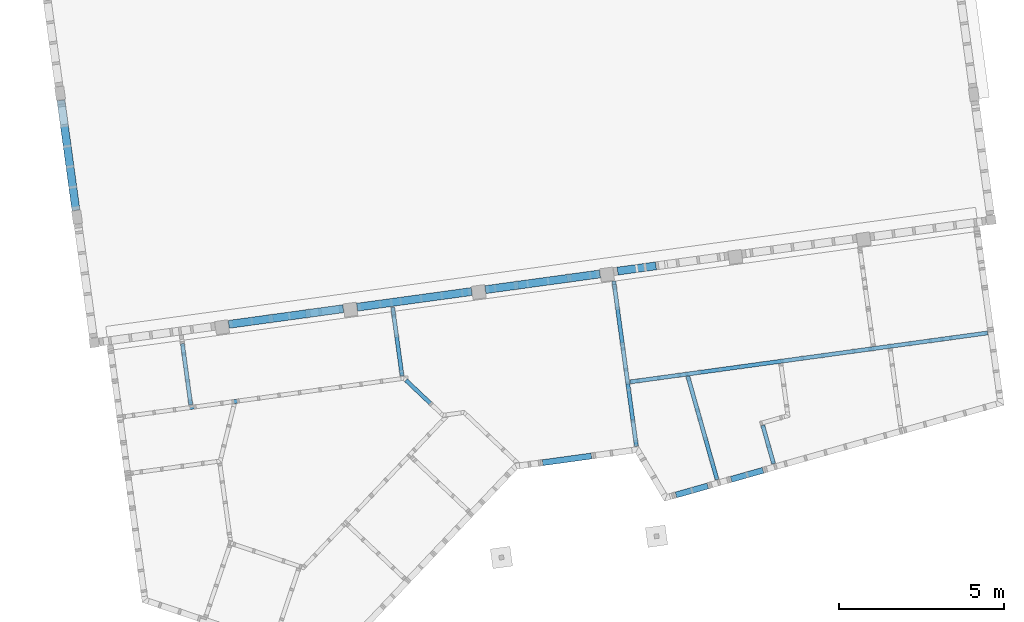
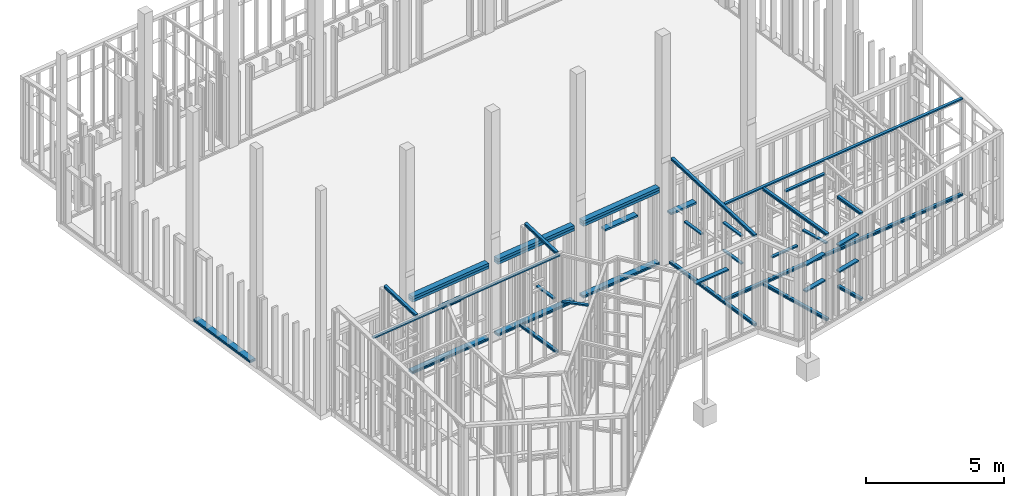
# One storey, part 11 of 24: 52 beams.
"""IFC2X3 building model written with IfcOpenShell, lengths in metres."""

from ifc_helpers import new_model, entity, si_unit, converted_unit, derived_unit, money_unit, direction, frame, frame_2d, origin_with_axes, place, context, subcontext, project, spatial, rectangle, extrude, clip, halfspace, material, type_object, element, save


model = new_model("IFC2X3")

# Units and contexts
model_context = context("Model", 3, precision=1e-05, world=origin_with_axes(), true_north=direction((0.0, 1.0)))
body_context = subcontext(model_context, "Body", "Model", "MODEL_VIEW")
ifc_project = project(units=[si_unit("LENGTHUNIT", "METRE"), si_unit("AREAUNIT", "SQUARE_METRE"), si_unit("VOLUMEUNIT", "CUBIC_METRE"), converted_unit("PLANEANGLEUNIT", "DEGREE", entity("IfcPlaneAngleMeasure", 0.0174532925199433), si_unit("PLANEANGLEUNIT", "RADIAN"), dimensions=[0, 0, 0, 0, 0, 0, 0]), money_unit("EUR"), converted_unit("TIMEUNIT", "Year", entity("IfcTimeMeasure", 31557600.0), si_unit("TIMEUNIT", "SECOND"), dimensions=[0, 0, 1, 0, 0, 0, 0]), si_unit("MASSUNIT", "GRAM", prefix="KILO"), si_unit("THERMODYNAMICTEMPERATUREUNIT", "DEGREE_CELSIUS"), si_unit("LUMINOUSINTENSITYUNIT", "LUMEN"), si_unit("ENERGYUNIT", "JOULE", prefix="MEGA"), derived_unit("THERMALCONDUCTANCEUNIT", [(si_unit("POWERUNIT", "WATT"), 1), (si_unit("LENGTHUNIT", "METRE"), -1), (si_unit("THERMODYNAMICTEMPERATUREUNIT", "KELVIN"), -1)]), derived_unit("SPECIFICHEATCAPACITYUNIT", [(si_unit("ENERGYUNIT", "JOULE"), 1), (si_unit("MASSUNIT", "GRAM", prefix="KILO"), -1), (si_unit("THERMODYNAMICTEMPERATUREUNIT", "KELVIN"), -1)]), derived_unit("MASSDENSITYUNIT", [(si_unit("MASSUNIT", "GRAM", prefix="KILO"), 1), (si_unit("VOLUMEUNIT", "CUBIC_METRE"), -1)])], contexts=[model_context])

# Site, building, storey
site_placement = place(None, origin_with_axes())
site = spatial("IfcSite", under=ifc_project, at=site_placement, Name="Gelände", CompositionType="ELEMENT")
building_placement = place(site_placement, origin_with_axes())
building = spatial("IfcBuilding", under=site, at=building_placement, Name="Gebäude", CompositionType="ELEMENT")
storey_placement = place(building_placement, origin_with_axes())
storey = spatial("IfcBuildingStorey", under=building, at=storey_placement, Name="EG", CompositionType="ELEMENT", Elevation=0.0)

# Beams
ifc_material_1 = material(Name="Bauholz")
beam_type_1 = type_object("IfcBeamType", Name="Bauholz 120 x 60", PredefinedType="NOTDEFINED")
beam_1_placement = place(storey_placement, frame((102.7236873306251, -152.2686816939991, 2.195), z_axis=(0.0, 0.0, 1.0), x_axis=(-0.9907484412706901, -0.1357111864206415, 0.0)))
element("IfcBeam", 1, at=beam_1_placement, inside=storey, type_object=beam_type_1, material=ifc_material_1, Name="Unterzug-021", context=body_context, shape_type="SweptSolid", body=[
    extrude(rectangle(XDim=0.06, YDim=0.12, at=frame_2d((-0.03, 0.0), x_axis=(1.0, 0.0))), frame((0.0, 0.0, 0.0), z_axis=(0.0, 1.0, 0.0), x_axis=(0.0, 0.0, 1.0)), (0.0, 0.0, 1.0), 1.090424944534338),
])
beam_2_placement = place(storey_placement, frame((105.0789092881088, -153.9516149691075, 3.279521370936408), z_axis=(0.0, 0.0, 1.0), x_axis=(-0.9621980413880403, -0.2723507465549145, 0.0)))
element("IfcBeam", 2, at=beam_2_placement, inside=storey, type_object=beam_type_1, material=ifc_material_1, Name="Unterzug-021", context=body_context, shape_type="SweptSolid", body=[
    extrude(rectangle(XDim=0.06, YDim=0.12, at=frame_2d((-0.03, 0.0), x_axis=(1.0, 0.0))), frame((0.0, 0.0, 0.0), z_axis=(0.0, 1.0, 0.0), x_axis=(0.0, 0.0, 1.0)), (0.0, 0.0, 1.0), 1.189999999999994),
])
beam_3_placement = place(storey_placement, frame((107.3417473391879, -151.5755371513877, 3.537563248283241), z_axis=(0.0, 0.0, 1.0), x_axis=(-0.1357111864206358, 0.9907484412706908, 0.0)))
element("IfcBeam", 3, at=beam_3_placement, inside=storey, type_object=beam_type_1, material=ifc_material_1, Name="Unterzug-021", context=body_context, shape_type="SweptSolid", body=[
    extrude(rectangle(XDim=0.06, YDim=0.12, at=frame_2d((-0.03, 0.0), x_axis=(1.0, 0.0))), frame((0.0, 0.0, 0.0), z_axis=(0.0, 1.0, 0.0), x_axis=(0.0, 0.0, 1.0)), (0.0, 0.0, 1.0), 1.815000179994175),
])
for number, where, z_axis, x_axis, name in (
    (4, (113.5952773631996, -150.7189480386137, -0.04299999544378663), (0.0, 0.0, 1.0), (-0.1357111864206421, 0.99074844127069, 0.0), "Unterzug-021"),
    (5, (113.5952773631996, -150.7189480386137, 4.166578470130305), (0.0, 0.0, 1.0), (-0.1357111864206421, 0.99074844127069, 0.0), "Unterzug-021"),
):
    element("IfcBeam", number, at=place(storey_placement, frame(where, z_axis=z_axis, x_axis=x_axis)), inside=storey, type_object=beam_type_1, material=ifc_material_1, Name=name, context=body_context, shape_type="SweptSolid", body=[
        extrude(rectangle(XDim=0.06, YDim=0.12, at=frame_2d((-0.03, 0.0), x_axis=(1.0, 0.0))), frame((0.0, 0.0, 0.0), z_axis=(0.0, 1.0, 0.0), x_axis=(0.0, 0.0, 1.0)), (0.0, 0.0, 1.0), 10.90632528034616),
    ])
beam_4_placement = place(storey_placement, frame((106.7991768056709, -153.5118791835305, -0.04299999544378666), z_axis=(0.0, 0.0, 1.0), x_axis=(-0.962198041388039, -0.2723507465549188, 0.0)))
element("IfcBeam", 6, at=beam_4_placement, inside=storey, type_object=beam_type_1, material=ifc_material_1, Name="Unterzug-021", context=body_context, shape_type="SweptSolid", body=[
    extrude(rectangle(XDim=0.06, YDim=0.12, at=frame_2d((-0.03, 0.0), x_axis=(1.0, 0.0))), frame((0.0, 0.0, 0.0), z_axis=(0.0, 1.0, 0.0), x_axis=(0.0, 0.0, 1.0)), (0.0, 0.0, 1.0), 1.204596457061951),
])
beam_5_placement = place(storey_placement, frame((106.7989070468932, -153.5109261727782, 3.90744864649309), z_axis=(0.0, 0.0, 1.0), x_axis=(-0.9621980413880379, -0.2723507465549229, 0.0)))
element("IfcBeam", 7, at=beam_5_placement, inside=storey, type_object=beam_type_1, material=ifc_material_1, Name="Unterzug-021", context=body_context, shape_type="Clipping", body=[
    clip(clip(extrude(rectangle(XDim=0.06, YDim=0.12, at=frame_2d((-0.03, 0.0), x_axis=(1.0, 0.0))), frame((0.0, -0.02339274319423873, 0.003255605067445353), z_axis=(0.0, 0.9904540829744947, -0.1378430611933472), x_axis=(0.0, 0.1378430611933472, 0.9904540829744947)), (0.0, 0.0, 1.0), 1.265236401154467), halfspace(frame((0.0, 0.0, 0.0), z_axis=(0.0, 1.0, 0.0), x_axis=(0.0, 0.0, 1.0)), True)), halfspace(frame((0.0, 1.20637307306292, 0.0), z_axis=(0.0, -1.0, 0.0), x_axis=(0.0, 0.0, -1.0)), True)),
])
beam_6_placement = place(storey_placement, frame((104.5342535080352, -152.0273803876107, -0.04299999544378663), z_axis=(0.0, 0.0, 1.0), x_axis=(-0.962198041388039, -0.2723507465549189, 0.0)))
element("IfcBeam", 8, at=beam_6_placement, inside=storey, type_object=beam_type_1, material=ifc_material_1, Name="Unterzug-021", context=body_context, shape_type="SweptSolid", body=[
    extrude(rectangle(XDim=0.0600000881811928, YDim=0.12, at=frame_2d((-0.0300000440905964, 0.0), x_axis=(1.0, 0.0))), frame((0.0, 0.0, 0.0), z_axis=(0.0, 1.0, 0.0), x_axis=(0.0, 0.0, 1.0)), (0.0, 0.0, 1.0), 3.249832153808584),
])
beam_7_placement = place(storey_placement, frame((104.5339837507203, -152.0264273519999, 4.156199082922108), z_axis=(0.0, 0.0, 1.0), x_axis=(-0.9621980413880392, -0.272350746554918, 0.0)))
element("IfcBeam", 9, at=beam_7_placement, inside=storey, type_object=beam_type_1, material=ifc_material_1, Name="Unterzug-021", context=body_context, shape_type="Clipping", body=[
    clip(clip(extrude(rectangle(XDim=0.06, YDim=0.12, at=frame_2d((-0.03, 0.0), x_axis=(1.0, 0.0))), frame((0.0, -0.02339194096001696, 0.003255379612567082), z_axis=(0.0, 0.990454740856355, -0.1378383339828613), x_axis=(0.0, 0.1378383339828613, 0.990454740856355)), (0.0, 0.0, 1.0), 3.330234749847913), halfspace(frame((0.0, 0.0, 0.0), z_axis=(0.0, 1.0, 0.0), x_axis=(0.0, 0.0, 1.0)), True)), halfspace(frame((0.0, 3.251662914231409, 0.0), z_axis=(0.0, -1.0, 0.0), x_axis=(0.0, 0.0, -1.0)), True)),
])
beam_8_placement = place(storey_placement, frame((102.2962968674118, -149.1485520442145, -0.04299999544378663), z_axis=(0.0, 0.0, 1.0), x_axis=(-0.9907484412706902, -0.1357111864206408, 0.0)))
element("IfcBeam", 10, at=beam_8_placement, inside=storey, type_object=beam_type_1, material=ifc_material_1, Name="Unterzug-021", context=body_context, shape_type="SweptSolid", body=[
    extrude(rectangle(XDim=0.06, YDim=0.12, at=frame_2d((-0.03, 0.0), x_axis=(1.0, 0.0))), frame((0.0, 0.0, 0.0), z_axis=(0.0, 1.0, 0.0), x_axis=(0.0, 0.0, 1.0)), (0.0, 0.0, 1.0), 5.043582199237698),
])
beam_9_placement = place(storey_placement, frame((102.414463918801, -150.0112210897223, 2.195), z_axis=(0.0, 0.0, 1.0), x_axis=(-0.9907484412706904, -0.1357111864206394, 0.0)))
element("IfcBeam", 11, at=beam_9_placement, inside=storey, type_object=beam_type_1, material=ifc_material_1, Name="Unterzug-021", context=body_context, shape_type="SweptSolid", body=[
    extrude(rectangle(XDim=0.06, YDim=0.12, at=frame_2d((-0.03, 0.0), x_axis=(1.0, 0.0))), frame((0.0, 0.0, 0.0), z_axis=(0.0, 1.0, 0.0), x_axis=(0.0, 0.0, 1.0)), (0.0, 0.0, 1.0), 1.010000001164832),
])
beam_10_placement = place(storey_placement, frame((102.7236873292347, -152.2686816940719, 3.420563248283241), z_axis=(0.0, 0.0, 1.0), x_axis=(-0.9907484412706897, -0.1357111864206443, 0.0)))
element("IfcBeam", 12, at=beam_10_placement, inside=storey, type_object=beam_type_1, material=ifc_material_1, Name="Unterzug-021", context=body_context, shape_type="SweptSolid", body=[
    extrude(rectangle(XDim=0.06, YDim=0.12, at=frame_2d((-0.03, 0.0), x_axis=(1.0, 0.0))), frame((0.0, 0.0, 0.0), z_axis=(0.0, 1.0, 0.0), x_axis=(0.0, 0.0, 1.0)), (0.0, 0.0, 1.0), 1.090425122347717),
])
beam_11_placement = place(storey_placement, frame((95.6137137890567, -149.9428017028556, -0.04300000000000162), z_axis=(0.0, 0.0, 1.0), x_axis=(-0.9907484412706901, -0.1357111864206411, 0.0)))
element("IfcBeam", 13, at=beam_11_placement, inside=storey, type_object=beam_type_1, material=ifc_material_1, Name="Unterzug-021", context=body_context, shape_type="SweptSolid", body=[
    extrude(rectangle(XDim=0.06, YDim=0.12, at=frame_2d((-0.03, 0.0), x_axis=(1.0, 0.0))), frame((0.0, 0.0, 0.0), z_axis=(0.0, 1.0, 0.0), x_axis=(0.0, 0.0, 1.0)), (0.0, 0.0, 1.0), 2.098133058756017),
])
beam_12_placement = place(storey_placement, frame((95.7380895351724, -150.8507965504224, 2.195), z_axis=(0.0, 0.0, 1.0), x_axis=(-0.9907484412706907, -0.1357111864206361, 0.0)))
element("IfcBeam", 14, at=beam_12_placement, inside=storey, type_object=beam_type_1, material=ifc_material_1, Name="Unterzug-021", context=body_context, shape_type="SweptSolid", body=[
    extrude(rectangle(XDim=0.06, YDim=0.12, at=frame_2d((-0.03, 0.0), x_axis=(1.0, 0.0))), frame((0.0, 0.0, 0.0), z_axis=(0.0, 1.0, 0.0), x_axis=(0.0, 0.0, 1.0)), (0.0, 0.0, 1.0), 1.00999999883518),
])
beam_13_placement = place(storey_placement, frame((96.01822743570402, -152.1506678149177, 2.195), z_axis=(0.0, 0.0, 1.0), x_axis=(-0.6874340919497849, -0.7262467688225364, 0.0)))
element("IfcBeam", 15, at=beam_13_placement, inside=storey, type_object=beam_type_1, material=ifc_material_1, Name="Unterzug-021", context=body_context, shape_type="SweptSolid", body=[
    extrude(rectangle(XDim=0.06, YDim=0.12, at=frame_2d((-0.03, 0.0), x_axis=(1.0, 0.0))), frame((0.0, 0.0, 0.0), z_axis=(0.0, 1.0, 0.0), x_axis=(0.0, 0.0, 1.0)), (0.0, 0.0, 1.0), 1.009999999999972),
])
beam_14_placement = place(storey_placement, frame((106.1033129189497, -151.745185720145, 0.8920000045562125), z_axis=(0.0, 0.0, 1.0), x_axis=(-0.135711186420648, 0.9907484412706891, 0.0)))
element("IfcBeam", 16, at=beam_14_placement, inside=storey, type_object=beam_type_1, material=ifc_material_1, Name="Unterzug-021", context=body_context, shape_type="SweptSolid", body=[
    extrude(rectangle(XDim=0.06, YDim=0.12, at=frame_2d((-0.03, 0.0), x_axis=(1.0, 0.0))), frame((0.0, 0.0, 0.0), z_axis=(0.0, 1.0, 0.0), x_axis=(0.0, 0.0, 1.0)), (0.0, 0.0, 1.0), 1.190000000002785),
])
ifc_material_2 = material(Name="Holz, Bauholz")
beam_type_2 = type_object("IfcBeamType", Name="Holz, Bauholz 240 x 60", PredefinedType="NOTDEFINED")
beam_15_placement = place(storey_placement, frame((98.00144429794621, -149.4668565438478, -0.08800000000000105), z_axis=(0.0, 0.0, 1.0), x_axis=(-0.1357111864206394, 0.9907484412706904, 0.0)))
element("IfcBeam", 17, at=beam_15_placement, inside=storey, type_object=beam_type_2, material=ifc_material_2, Name="Unterzug-021", context=body_context, shape_type="SweptSolid", body=[
    extrude(rectangle(XDim=0.06, YDim=0.24, at=frame_2d((-0.03, 0.0), x_axis=(1.0, 0.0))), frame((0.0, 0.0, 0.0), z_axis=(0.0, 1.0, 0.0), x_axis=(0.0, 0.0, 1.0)), (0.0, 0.0, 1.0), 3.494285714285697),
])
beam_16_placement = place(storey_placement, frame((94.12167543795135, -149.985684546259, -0.08800000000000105), z_axis=(0.0, 0.0, 1.0), x_axis=(-0.1357111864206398, 0.9907484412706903, 0.0)))
element("IfcBeam", 18, at=beam_16_placement, inside=storey, type_object=beam_type_2, material=ifc_material_2, Name="Unterzug-021", context=body_context, shape_type="SweptSolid", body=[
    extrude(rectangle(XDim=0.06, YDim=0.24, at=frame_2d((-0.03, 0.0), x_axis=(1.0, 0.0))), frame((0.0, 0.0, 0.0), z_axis=(0.0, 1.0, 0.0), x_axis=(0.0, 0.0, 1.0)), (0.0, 0.0, 1.0), 3.494285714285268),
])
beam_17_placement = place(storey_placement, frame((101.8795167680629, -148.9356441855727, -0.08800000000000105), z_axis=(0.0, 0.0, 1.0), x_axis=(-0.1357111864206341, 0.9907484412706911, 0.0)))
element("IfcBeam", 19, at=beam_17_placement, inside=storey, type_object=beam_type_2, material=ifc_material_2, Name="Unterzug-021", context=body_context, shape_type="SweptSolid", body=[
    extrude(rectangle(XDim=0.06, YDim=0.24, at=frame_2d((-0.03, 0.0), x_axis=(1.0, 0.0))), frame((0.0, 0.0, 0.0), z_axis=(0.0, 1.0, 0.0), x_axis=(0.0, 0.0, 1.0)), (0.0, 0.0, 1.0), 3.494285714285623),
])
beam_18_placement = place(storey_placement, frame((85.5868869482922, -143.6836472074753, -0.08800000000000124), z_axis=(0.0, 0.0, 1.0), x_axis=(-0.9907484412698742, -0.1357111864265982, 0.0)))
element("IfcBeam", 20, at=beam_18_placement, inside=storey, type_object=beam_type_2, material=ifc_material_2, Name="Unterzug-021", context=body_context, shape_type="SweptSolid", body=[
    extrude(rectangle(XDim=0.06, YDim=0.24, at=frame_2d((-0.03, 0.0), x_axis=(1.0, 0.0))), frame((0.0, 0.0, 0.0), z_axis=(0.0, 1.0, 0.0), x_axis=(0.0, 0.0, 1.0)), (0.0, 0.0, 1.0), 3.359999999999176),
])
beam_type_3 = type_object("IfcBeamType", Name="Bauholz 240 x 60", PredefinedType="NOTDEFINED")
beam_19_placement = place(storey_placement, frame((94.12167543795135, -149.985684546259, -0.02800000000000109), z_axis=(0.0, 0.0, 1.0), x_axis=(-0.1357111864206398, 0.9907484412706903, 0.0)))
element("IfcBeam", 21, at=beam_19_placement, inside=storey, type_object=beam_type_3, material=ifc_material_1, Name="Unterzug-021", context=body_context, shape_type="SweptSolid", body=[
    extrude(rectangle(XDim=0.06, YDim=0.24, at=frame_2d((-0.03, 0.0), x_axis=(1.0, 0.0))), frame((0.0, 0.0, 0.0), z_axis=(0.0, 1.0, 0.0), x_axis=(0.0, 0.0, 1.0)), (0.0, 0.0, 1.0), 3.494285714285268),
])
beam_20_placement = place(storey_placement, frame((98.00144429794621, -149.4668565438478, -0.02800000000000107), z_axis=(0.0, 0.0, 1.0), x_axis=(-0.1357111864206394, 0.9907484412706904, 0.0)))
element("IfcBeam", 22, at=beam_20_placement, inside=storey, type_object=beam_type_3, material=ifc_material_1, Name="Unterzug-021", context=body_context, shape_type="SweptSolid", body=[
    extrude(rectangle(XDim=0.06, YDim=0.24, at=frame_2d((-0.03, 0.0), x_axis=(1.0, 0.0))), frame((0.0, 0.0, 0.0), z_axis=(0.0, 1.0, 0.0), x_axis=(0.0, 0.0, 1.0)), (0.0, 0.0, 1.0), 3.494285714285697),
])
beam_21_placement = place(storey_placement, frame((101.8795167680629, -148.9356441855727, -0.02800000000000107), z_axis=(0.0, 0.0, 1.0), x_axis=(-0.1357111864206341, 0.9907484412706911, 0.0)))
element("IfcBeam", 23, at=beam_21_placement, inside=storey, type_object=beam_type_3, material=ifc_material_1, Name="Unterzug-021", context=body_context, shape_type="SweptSolid", body=[
    extrude(rectangle(XDim=0.06, YDim=0.24, at=frame_2d((-0.03, 0.0), x_axis=(1.0, 0.0))), frame((0.0, 0.0, 0.0), z_axis=(0.0, 1.0, 0.0), x_axis=(0.0, 0.0, 1.0)), (0.0, 0.0, 1.0), 3.494285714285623),
])
ifc_material_3 = material(Name="Holz, Bauholz-hart")
beam_type_4 = type_object("IfcBeamType", Name="Holz, Bauholz-hart 120 x 60", PredefinedType="NOTDEFINED")
beam_22_placement = place(storey_placement, frame((102.3109536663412, -149.2555528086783, 4.524978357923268), z_axis=(0.0, 0.0, 1.0), x_axis=(-0.99074844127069, -0.1357111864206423, 0.0)))
element("IfcBeam", 24, at=beam_22_placement, inside=storey, type_object=beam_type_4, material=ifc_material_3, Name="Unterzug-021", context=body_context, shape_type="Clipping", body=[
    clip(clip(extrude(rectangle(XDim=0.06, YDim=0.12, at=frame_2d((-0.03, 0.0), x_axis=(1.0, 0.0))), frame((0.0, -0.02361845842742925, 0.003319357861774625), z_axis=(0.0, 0.9902680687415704, -0.1391731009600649), x_axis=(0.0, 0.1391731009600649, 0.9902680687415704)), (0.0, 0.0, 1.0), 5.028758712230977), halfspace(frame((0.0, 0.0, 0.0), z_axis=(0.0, 1.0, 0.0), x_axis=(0.0, 0.0, 1.0)), True)), halfspace(frame((0.0, 4.932582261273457, 0.0), z_axis=(0.0, -1.0, 0.0), x_axis=(0.0, 0.0, -1.0)), True)),
])
beam_23_placement = place(storey_placement, frame((95.64512734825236, -150.1721338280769, 4.524490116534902), z_axis=(0.0, 0.0, 1.0), x_axis=(-0.9907484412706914, -0.135711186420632, 0.0)))
element("IfcBeam", 25, at=beam_23_placement, inside=storey, type_object=beam_type_4, material=ifc_material_3, Name="Unterzug-021", context=body_context, shape_type="Clipping", body=[
    clip(clip(extrude(rectangle(XDim=0.06, YDim=0.12, at=frame_2d((-0.03, 0.0), x_axis=(1.0, 0.0))), frame((0.0, -0.02361845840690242, 0.003319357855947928), z_axis=(0.0, 0.9902680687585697, -0.1391731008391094), x_axis=(0.0, 0.1391731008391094, 0.9902680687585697)), (0.0, 0.0, 1.0), 1.932705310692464), halfspace(frame((0.0, 0.0, 0.0), z_axis=(0.0, 1.0, 0.0), x_axis=(0.0, 0.0, 1.0)), True)), halfspace(frame((0.0, 1.866659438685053, 0.0), z_axis=(0.0, -1.0, 0.0), x_axis=(0.0, 0.0, -1.0)), True)),
])
beam_24_placement = place(storey_placement, frame((89.25907777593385, -151.0433786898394, 4.524978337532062), z_axis=(0.0, 0.0, 1.0), x_axis=(-0.9907484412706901, -0.1357111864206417, 0.0)))
element("IfcBeam", 26, at=beam_24_placement, inside=storey, type_object=beam_type_4, material=ifc_material_3, Name="Unterzug-021", context=body_context, shape_type="Clipping", body=[
    clip(clip(extrude(rectangle(XDim=0.06, YDim=0.12, at=frame_2d((-0.03, 0.0), x_axis=(1.0, 0.0))), frame((0.0, -0.02361845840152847, 0.003319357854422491), z_axis=(0.0, 0.99026806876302, -0.1391731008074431), x_axis=(0.0, 0.1391731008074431, 0.99026806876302)), (0.0, 0.0, 1.0), 1.936213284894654), halfspace(frame((0.0, 0.0, 0.0), z_axis=(0.0, 1.0, 0.0), x_axis=(0.0, 0.0, 1.0)), True)), halfspace(frame((0.0, 1.870133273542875, 0.0), z_axis=(0.0, -1.0, 0.0), x_axis=(0.0, 0.0, -1.0)), True)),
])
beam_type_5 = type_object("IfcBeamType", Name="Holz, Bauholz 120 x 60", PredefinedType="NOTDEFINED")
beam_25_placement = place(storey_placement, frame((104.5342535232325, -152.0273804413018, 4.095482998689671), z_axis=(0.0, 0.0, 1.0), x_axis=(-0.9621980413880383, -0.2723507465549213, 0.0)))
element("IfcBeam", 27, at=beam_25_placement, inside=storey, type_object=beam_type_5, material=ifc_material_2, Name="Unterzug-021", context=body_context, shape_type="Clipping", body=[
    clip(clip(extrude(rectangle(XDim=0.06, YDim=0.12, at=frame_2d((-0.03, 0.0), x_axis=(1.0, 0.0))), frame((0.0, -0.02339194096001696, 0.003255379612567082), z_axis=(0.0, 0.990454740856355, -0.1378383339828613), x_axis=(0.0, 0.1378383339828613, 0.990454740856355)), (0.0, 0.0, 1.0), 3.328386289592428), halfspace(frame((0.0, 0.0, 0.0), z_axis=(0.0, 1.0, 0.0), x_axis=(0.0, 0.0, 1.0)), True)), halfspace(frame((0.0, 3.249832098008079, 0.0), z_axis=(0.0, -1.0, 0.0), x_axis=(0.0, 0.0, -1.0)), True)),
])
beam_26_placement = place(storey_placement, frame((106.7991767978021, -153.5118791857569, 3.846732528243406), z_axis=(0.0, 0.0, 1.0), x_axis=(-0.9621980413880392, -0.2723507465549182, 0.0)))
element("IfcBeam", 28, at=beam_26_placement, inside=storey, type_object=beam_type_5, material=ifc_material_2, Name="Unterzug-021", context=body_context, shape_type="Clipping", body=[
    clip(clip(extrude(rectangle(XDim=0.06, YDim=0.12, at=frame_2d((-0.03, 0.0), x_axis=(1.0, 0.0))), frame((0.0, -0.02339274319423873, 0.003255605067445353), z_axis=(0.0, 0.9904540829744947, -0.1378430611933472), x_axis=(0.0, 0.1378430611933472, 0.9904540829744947)), (0.0, 0.0, 1.0), 1.263442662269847), halfspace(frame((0.0, 0.0, 0.0), z_axis=(0.0, 1.0, 0.0), x_axis=(0.0, 0.0, 1.0)), True)), halfspace(frame((0.0, 1.204596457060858, 0.0), z_axis=(0.0, -1.0, 0.0), x_axis=(0.0, 0.0, -1.0)), True)),
])
beam_27_placement = place(storey_placement, frame((113.5952773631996, -150.7189480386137, -0.1029999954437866), z_axis=(0.0, 0.0, 1.0), x_axis=(-0.1357111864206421, 0.99074844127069, 0.0)))
element("IfcBeam", 29, at=beam_27_placement, inside=storey, type_object=beam_type_5, material=ifc_material_2, Name="Unterzug-021", context=body_context, shape_type="SweptSolid", body=[
    extrude(rectangle(XDim=0.06, YDim=0.12, at=frame_2d((-0.03, 0.0), x_axis=(1.0, 0.0))), frame((0.0, 0.0, 0.0), z_axis=(0.0, 1.0, 0.0), x_axis=(0.0, 0.0, 1.0)), (0.0, 0.0, 1.0), 10.90632528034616),
])
beam_28_placement = place(storey_placement, frame((106.7991768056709, -153.5118791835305, -0.1029999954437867), z_axis=(0.0, 0.0, 1.0), x_axis=(-0.962198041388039, -0.2723507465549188, 0.0)))
element("IfcBeam", 30, at=beam_28_placement, inside=storey, type_object=beam_type_5, material=ifc_material_2, Name="Unterzug-021", context=body_context, shape_type="SweptSolid", body=[
    extrude(rectangle(XDim=0.06, YDim=0.12, at=frame_2d((-0.03, 0.0), x_axis=(1.0, 0.0))), frame((0.0, 0.0, 0.0), z_axis=(0.0, 1.0, 0.0), x_axis=(0.0, 0.0, 1.0)), (0.0, 0.0, 1.0), 1.204596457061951),
])
beam_29_placement = place(storey_placement, frame((102.2962968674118, -149.1485520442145, -0.1029999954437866), z_axis=(0.0, 0.0, 1.0), x_axis=(-0.9907484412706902, -0.1357111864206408, 0.0)))
element("IfcBeam", 31, at=beam_29_placement, inside=storey, type_object=beam_type_5, material=ifc_material_2, Name="Unterzug-021", context=body_context, shape_type="SweptSolid", body=[
    extrude(rectangle(XDim=0.06, YDim=0.12, at=frame_2d((-0.03, 0.0), x_axis=(1.0, 0.0))), frame((0.0, 0.0, 0.0), z_axis=(0.0, 1.0, 0.0), x_axis=(0.0, 0.0, 1.0)), (0.0, 0.0, 1.0), 5.043582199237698),
])
beam_30_placement = place(storey_placement, frame((102.3108309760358, -149.2546571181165, 4.585695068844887), z_axis=(0.0, 0.0, 1.0), x_axis=(-0.9907484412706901, -0.1357111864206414, 0.0)))
element("IfcBeam", 32, at=beam_30_placement, inside=storey, type_object=beam_type_5, material=ifc_material_2, Name="Unterzug-021", context=body_context, shape_type="Clipping", body=[
    clip(clip(extrude(rectangle(XDim=0.06, YDim=0.12, at=frame_2d((-0.03, 0.0), x_axis=(1.0, 0.0))), frame((0.0, -0.02361845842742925, 0.003319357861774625), z_axis=(0.0, 0.9902680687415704, -0.1391731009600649), x_axis=(0.0, 0.1391731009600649, 0.9902680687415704)), (0.0, 0.0, 1.0), 5.033701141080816), halfspace(frame((0.0, 0.0, 0.0), z_axis=(0.0, 1.0, 0.0), x_axis=(0.0, 0.0, 1.0)), True)), halfspace(frame((0.0, 4.93747659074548, 0.0), z_axis=(0.0, -1.0, 0.0), x_axis=(0.0, 0.0, -1.0)), True)),
])
beam_31_placement = place(storey_placement, frame((104.5342535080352, -152.0273803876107, -0.1030000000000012), z_axis=(0.0, 0.0, 1.0), x_axis=(-0.962198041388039, -0.2723507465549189, 0.0)))
element("IfcBeam", 33, at=beam_31_placement, inside=storey, type_object=beam_type_5, material=ifc_material_2, Name="Unterzug-021", context=body_context, shape_type="SweptSolid", body=[
    extrude(rectangle(XDim=0.06, YDim=0.12, at=frame_2d((-0.03, 0.0), x_axis=(1.0, 0.0))), frame((0.0, 0.0, 0.0), z_axis=(0.0, 1.0, 0.0), x_axis=(0.0, 0.0, 1.0)), (0.0, 0.0, 1.0), 3.249832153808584),
])
beam_32_placement = place(storey_placement, frame((95.6137137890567, -149.9428017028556, -0.1030000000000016), z_axis=(0.0, 0.0, 1.0), x_axis=(-0.9907484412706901, -0.1357111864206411, 0.0)))
element("IfcBeam", 34, at=beam_32_placement, inside=storey, type_object=beam_type_5, material=ifc_material_2, Name="Unterzug-021", context=body_context, shape_type="SweptSolid", body=[
    extrude(rectangle(XDim=0.06, YDim=0.12, at=frame_2d((-0.03, 0.0), x_axis=(1.0, 0.0))), frame((0.0, 0.0, 0.0), z_axis=(0.0, 1.0, 0.0), x_axis=(0.0, 0.0, 1.0)), (0.0, 0.0, 1.0), 2.098133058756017),
])
beam_33_placement = place(storey_placement, frame((95.64499351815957, -150.1711568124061, 4.585218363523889), z_axis=(0.0, 0.0, 1.0), x_axis=(-0.9907484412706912, -0.1357111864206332, 0.0)))
element("IfcBeam", 35, at=beam_33_placement, inside=storey, type_object=beam_type_5, material=ifc_material_2, Name="Unterzug-021", context=body_context, shape_type="Clipping", body=[
    clip(clip(extrude(rectangle(XDim=0.06, YDim=0.12, at=frame_2d((-0.03, 0.0), x_axis=(1.0, 0.0))), frame((0.0, -0.02361845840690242, 0.003319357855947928), z_axis=(0.0, 0.9902680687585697, -0.1391731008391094), x_axis=(0.0, 0.1391731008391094, 0.9902680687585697)), (0.0, 0.0, 1.0), 1.934701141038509), halfspace(frame((0.0, 0.0, 0.0), z_axis=(0.0, 1.0, 0.0), x_axis=(0.0, 0.0, 1.0)), True)), halfspace(frame((0.0, 1.8686358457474, 0.0), z_axis=(0.0, -1.0, 0.0), x_axis=(0.0, 0.0, -1.0)), True)),
])
beam_34_placement = place(storey_placement, frame((87.45742343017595, -153.2534633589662, 4.252197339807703), z_axis=(0.0, 0.0, 1.0), x_axis=(0.1357111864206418, -0.9907484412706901, 0.0)))
element("IfcBeam", 36, at=beam_34_placement, inside=storey, type_object=beam_type_5, material=ifc_material_2, Name="Unterzug-021", context=body_context, shape_type="SweptSolid", body=[
    extrude(rectangle(XDim=0.06, YDim=0.12, at=frame_2d((-0.03, 0.0), x_axis=(1.0, 0.0))), frame((0.0, 0.0, 0.0), z_axis=(0.0, 1.0, 0.0), x_axis=(0.0, 0.0, 1.0)), (0.0, 0.0, 1.0), 8.57362499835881),
])
beam_35_placement = place(storey_placement, frame((89.25887803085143, -151.0419204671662, 4.58577484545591), z_axis=(0.0, 0.0, 1.0), x_axis=(-0.9907484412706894, -0.1357111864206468, 0.0)))
element("IfcBeam", 37, at=beam_35_placement, inside=storey, type_object=beam_type_5, material=ifc_material_2, Name="Unterzug-021", context=body_context, shape_type="Clipping", body=[
    clip(clip(extrude(rectangle(XDim=0.06, YDim=0.12, at=frame_2d((-0.03, 0.0), x_axis=(1.0, 0.0))), frame((0.0, -0.02361845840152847, 0.003319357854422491), z_axis=(0.0, 0.99026806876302, -0.1391731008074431), x_axis=(0.0, 0.1391731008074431, 0.99026806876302)), (0.0, 0.0, 1.0), 1.938701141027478), halfspace(frame((0.0, 0.0, 0.0), z_axis=(0.0, 1.0, 0.0), x_axis=(0.0, 0.0, 1.0)), True)), halfspace(frame((0.0, 1.872596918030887, 0.0), z_axis=(0.0, -1.0, 0.0), x_axis=(0.0, 0.0, -1.0)), True)),
])
beam_type_6 = type_object("IfcBeamType", Name="Holz, Bauholz 240 x 120", PredefinedType="NOTDEFINED")
beam_36_placement = place(storey_placement, frame((94.12167543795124, -149.9856845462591, 3.272000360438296), z_axis=(0.0, 0.0, 1.0), x_axis=(-0.1357111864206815, 0.9907484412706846, 0.0)))
element("IfcBeam", 38, at=beam_36_placement, inside=storey, type_object=beam_type_6, material=ifc_material_2, Name="Unterzug-021", context=body_context, shape_type="SweptSolid", body=[
    extrude(rectangle(XDim=0.1200003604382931, YDim=0.24, at=frame_2d((-0.06000018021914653, 0.0), x_axis=(1.0, 0.0))), frame((0.0, 0.0, 0.0), z_axis=(0.0, 1.0, 0.0), x_axis=(0.0, 0.0, 1.0)), (0.0, 0.0, 1.0), 3.49428571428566),
])
beam_37_placement = place(storey_placement, frame((98.00144429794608, -149.4668565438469, 3.272000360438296), z_axis=(0.0, 0.0, 1.0), x_axis=(-0.1357111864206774, 0.9907484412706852, 0.0)))
element("IfcBeam", 39, at=beam_37_placement, inside=storey, type_object=beam_type_6, material=ifc_material_2, Name="Unterzug-021", context=body_context, shape_type="SweptSolid", body=[
    extrude(rectangle(XDim=0.1200003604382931, YDim=0.24, at=frame_2d((-0.06000018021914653, 0.0), x_axis=(1.0, 0.0))), frame((0.0, 0.0, 0.0), z_axis=(0.0, 1.0, 0.0), x_axis=(0.0, 0.0, 1.0)), (0.0, 0.0, 1.0), 3.494285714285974),
])
beam_38_placement = place(storey_placement, frame((101.8795167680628, -148.9356441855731, 3.272000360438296), z_axis=(0.0, 0.0, 1.0), x_axis=(-0.1357111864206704, 0.9907484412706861, 0.0)))
element("IfcBeam", 40, at=beam_38_placement, inside=storey, type_object=beam_type_6, material=ifc_material_2, Name="Unterzug-021", context=body_context, shape_type="SweptSolid", body=[
    extrude(rectangle(XDim=0.1200003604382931, YDim=0.24, at=frame_2d((-0.06000018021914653, 0.0), x_axis=(1.0, 0.0))), frame((0.0, 0.0, 0.0), z_axis=(0.0, 1.0, 0.0), x_axis=(0.0, 0.0, 1.0)), (0.0, 0.0, 1.0), 3.494285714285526),
])
beam_type_7 = type_object("IfcBeamType", Name="Holz, Bauholz-hart 240 x 60", PredefinedType="NOTDEFINED")
beam_39_placement = place(storey_placement, frame((85.5868869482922, -143.6836472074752, -0.02800000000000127), z_axis=(0.0, 0.0, 1.0), x_axis=(-0.9907484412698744, -0.135711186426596, 0.0)))
element("IfcBeam", 41, at=beam_39_placement, inside=storey, type_object=beam_type_7, material=ifc_material_3, Name="Unterzug-021", context=body_context, shape_type="SweptSolid", body=[
    extrude(rectangle(XDim=0.06, YDim=0.24, at=frame_2d((-0.03, 0.0), x_axis=(1.0, 0.0))), frame((0.0, 0.0, 0.0), z_axis=(0.0, 1.0, 0.0), x_axis=(0.0, 0.0, 1.0)), (0.0, 0.0, 1.0), 3.359999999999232),
])
beam_type_8 = type_object("IfcBeamType", Name="Holz, Bauholz-hart 240 x 120", PredefinedType="NOTDEFINED")
beam_40_placement = place(storey_placement, frame((94.12167543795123, -149.9856845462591, 3.152000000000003), z_axis=(0.0, 0.0, 1.0), x_axis=(-0.1357111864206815, 0.9907484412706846, 0.0)))
element("IfcBeam", 42, at=beam_40_placement, inside=storey, type_object=beam_type_8, material=ifc_material_3, Name="Unterzug-021", context=body_context, shape_type="SweptSolid", body=[
    extrude(rectangle(XDim=0.1200003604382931, YDim=0.24, at=frame_2d((-0.06000018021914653, 0.0), x_axis=(1.0, 0.0))), frame((0.0, 0.0, 0.0), z_axis=(0.0, 1.0, 0.0), x_axis=(0.0, 0.0, 1.0)), (0.0, 0.0, 1.0), 3.49428571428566),
])
beam_41_placement = place(storey_placement, frame((98.00144429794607, -149.4668565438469, 3.152000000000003), z_axis=(0.0, 0.0, 1.0), x_axis=(-0.1357111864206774, 0.9907484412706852, 0.0)))
element("IfcBeam", 43, at=beam_41_placement, inside=storey, type_object=beam_type_8, material=ifc_material_3, Name="Unterzug-021", context=body_context, shape_type="SweptSolid", body=[
    extrude(rectangle(XDim=0.1200003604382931, YDim=0.24, at=frame_2d((-0.06000018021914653, 0.0), x_axis=(1.0, 0.0))), frame((0.0, 0.0, 0.0), z_axis=(0.0, 1.0, 0.0), x_axis=(0.0, 0.0, 1.0)), (0.0, 0.0, 1.0), 3.494285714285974),
])
beam_42_placement = place(storey_placement, frame((101.8795167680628, -148.9356441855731, 3.152000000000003), z_axis=(0.0, 0.0, 1.0), x_axis=(-0.1357111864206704, 0.9907484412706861, 0.0)))
element("IfcBeam", 44, at=beam_42_placement, inside=storey, type_object=beam_type_8, material=ifc_material_3, Name="Unterzug-021", context=body_context, shape_type="SweptSolid", body=[
    extrude(rectangle(XDim=0.1200003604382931, YDim=0.24, at=frame_2d((-0.06000018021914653, 0.0), x_axis=(1.0, 0.0))), frame((0.0, 0.0, 0.0), z_axis=(0.0, 1.0, 0.0), x_axis=(0.0, 0.0, 1.0)), (0.0, 0.0, 1.0), 3.494285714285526),
])
beam_type_9 = type_object("IfcBeamType", Name="Bauholz 180 x 60", PredefinedType="NOTDEFINED")
for number, where, z_axis, x_axis, name in (
    (45, (105.1384724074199, -155.3429901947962, 1.9), (0.0, 0.0, 1.0), (-0.2723508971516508, 0.9621979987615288, 0.0), "Unterzug-021"),
    (46, (105.1384724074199, -155.3429901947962, 3.06), (0.0, 0.0, 1.0), (-0.2723508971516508, 0.9621979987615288, 0.0), "Unterzug-021"),
    (47, (106.8067447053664, -154.8707844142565, 3.06), (0.0, 0.0, 1.0), (-0.2723508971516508, 0.9621979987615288, 0.0), "Unterzug-021"),
    (48, (106.8067447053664, -154.8707844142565, 1.9), (0.0, 0.0, 1.0), (-0.2723508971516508, 0.9621979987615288, 0.0), "Unterzug-021"),
):
    element("IfcBeam", number, at=place(storey_placement, frame(where, z_axis=z_axis, x_axis=x_axis)), inside=storey, type_object=beam_type_9, material=ifc_material_1, Name=name, context=body_context, shape_type="SweptSolid", body=[
        extrude(rectangle(XDim=0.06, YDim=0.18, at=frame_2d((-0.03, 0.0), x_axis=(1.0, 0.0))), frame((0.0, 0.0, 0.0), z_axis=(0.0, 1.0, 0.0), x_axis=(0.0, 0.0, 1.0)), (0.0, 0.0, 1.0), 1.000000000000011),
    ])
beam_43_placement = place(storey_placement, frame((100.1454692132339, -154.639828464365, 3.06), z_axis=(0.0, 0.0, 1.0), x_axis=(0.1357111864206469, -0.9907484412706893, 0.0)))
element("IfcBeam", 49, at=beam_43_placement, inside=storey, type_object=beam_type_9, material=ifc_material_1, Name="Unterzug-021", context=body_context, shape_type="SweptSolid", body=[
    extrude(rectangle(XDim=0.06, YDim=0.18, at=frame_2d((-0.03, 0.0), x_axis=(1.0, 0.0))), frame((0.0, 0.0, 0.0), z_axis=(0.0, 1.0, 0.0), x_axis=(0.0, 0.0, 1.0)), (0.0, 0.0, 1.0), 1.490000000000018),
])
beam_type_10 = type_object("IfcBeamType", Name="Holz, Bauholz-hart 240 x 80", PredefinedType="NOTDEFINED")
beam_44_placement = place(storey_placement, frame((92.99268408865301, -150.1403320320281, 2.214691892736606), z_axis=(0.0, 0.0, 1.0), x_axis=(-0.1357111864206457, 0.9907484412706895, 0.0)))
element("IfcBeam", 50, at=beam_44_placement, inside=storey, type_object=beam_type_10, material=ifc_material_3, Name="Unterzug-021", context=body_context, shape_type="SweptSolid", body=[
    extrude(rectangle(XDim=0.08, YDim=0.24, at=frame_2d((-0.04, 0.0), x_axis=(1.0, 0.0))), frame((0.0, 0.0, 0.0), z_axis=(0.0, 1.0, 0.0), x_axis=(0.0, 0.0, 1.0)), (0.0, 0.0, 1.0), 1.010000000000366),
])
beam_45_placement = place(storey_placement, frame((100.891599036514, -149.0709676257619, 2.48), z_axis=(0.0, 0.0, 1.0), x_axis=(-0.1357111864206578, 0.9907484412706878, 0.0)))
element("IfcBeam", 51, at=beam_45_placement, inside=storey, type_object=beam_type_10, material=ifc_material_3, Name="Unterzug-021", context=body_context, shape_type="SweptSolid", body=[
    extrude(rectangle(XDim=0.08, YDim=0.24, at=frame_2d((-0.04, 0.0), x_axis=(1.0, 0.0))), frame((0.0, 0.0, 0.0), z_axis=(0.0, 1.0, 0.0), x_axis=(0.0, 0.0, 1.0)), (0.0, 0.0, 1.0), 1.50000000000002),
])
beam_type_11 = type_object("IfcBeamType", Name="Bauholz 240 x 80", PredefinedType="NOTDEFINED")
beam_46_placement = place(storey_placement, frame((103.5720009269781, -148.6911936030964, 1.88349013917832), z_axis=(0.0, 0.0, 1.0), x_axis=(-0.1357111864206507, 0.9907484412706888, 0.0)))
element("IfcBeam", 52, at=beam_46_placement, inside=storey, type_object=beam_type_11, material=ifc_material_1, Name="Unterzug-021", context=body_context, shape_type="SweptSolid", body=[
    extrude(rectangle(XDim=0.08, YDim=0.24, at=frame_2d((-0.04, 0.0), x_axis=(1.0, 0.0))), frame((0.0, 0.0, 0.0), z_axis=(0.0, 1.0, 0.0), x_axis=(0.0, 0.0, 1.0)), (0.0, 0.0, 1.0), 1.170000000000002),
])

save(model, "model.ifc")
